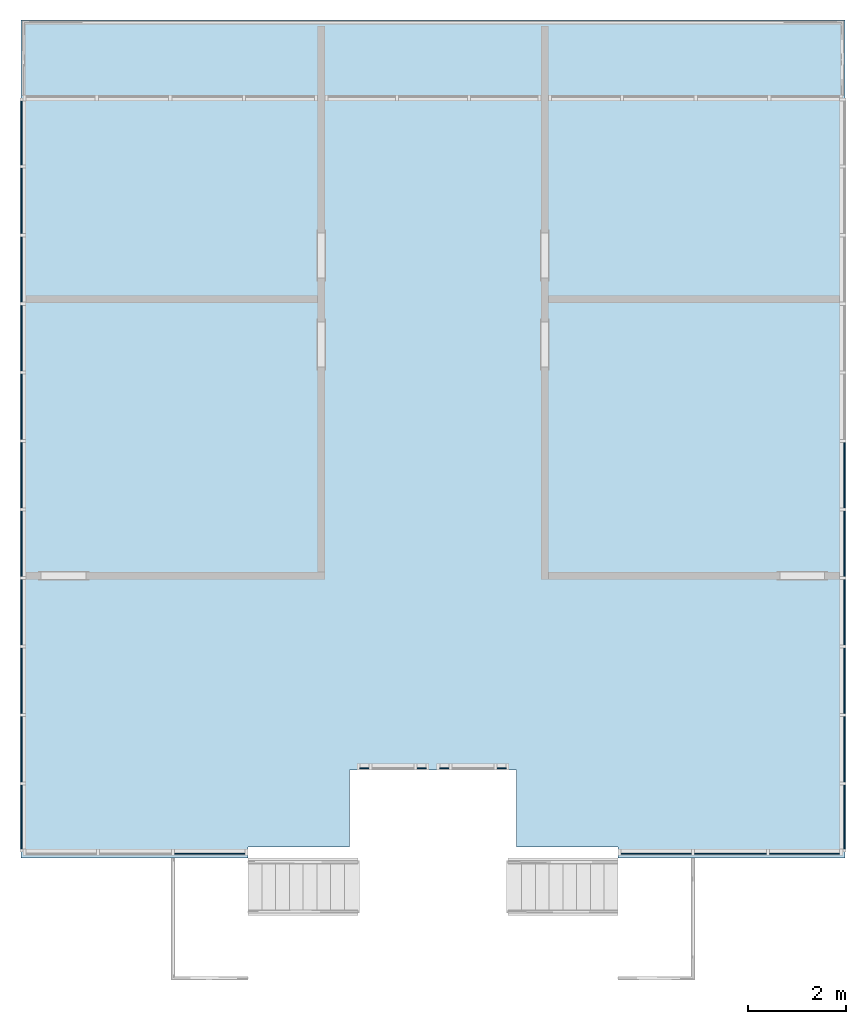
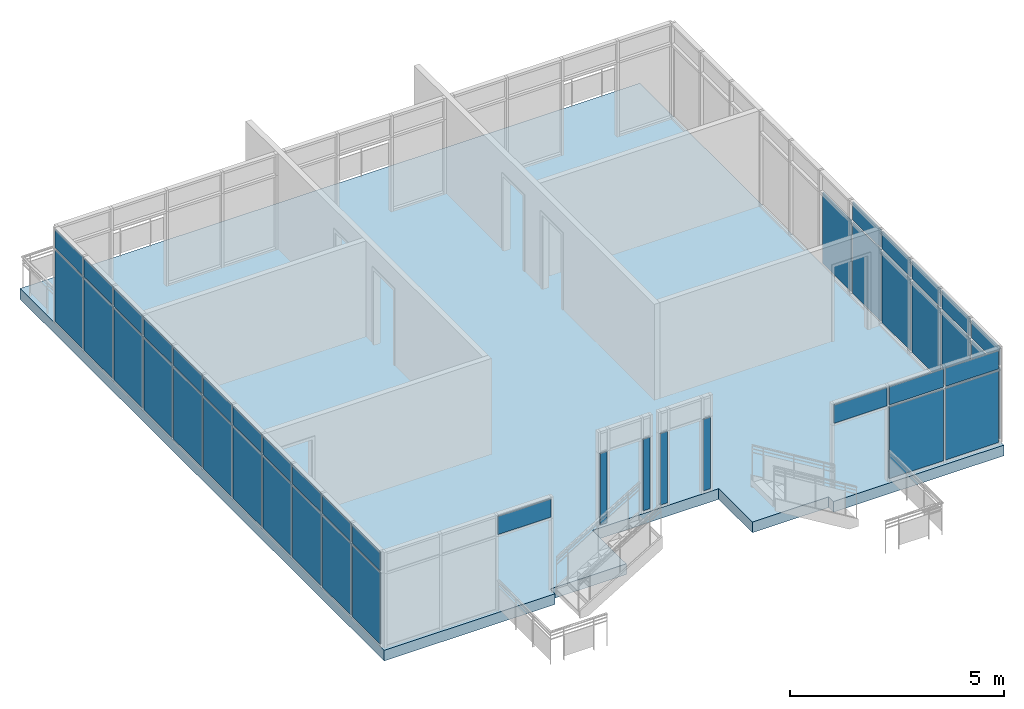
# One storey, part 5 of 11: 43 plates, 1 slab, 6 elements without a shape of their own.
"""IFC2X3 building model written with IfcOpenShell, lengths in feet."""

import ifcopenshell
import ifcopenshell.guid

model = None  # the IFC model being written
_history = None  # IfcOwnerHistory: only IFC2X3 demands one
_inside = {}  # id of a spatial element -> (the spatial element, [elements in it])
_under = {}  # id of a project, library or spatial element -> (it, [spatial elements below it])
_declared = {}  # id of a project -> (the project, [libraries it declares])
_typed = {}  # id of a type object -> (the type object, [elements of that type])
_made_of = {}  # id of a material, layer set ... -> (it, [elements and type objects made of it])


def new_model(schema):
    """Start an empty IFC model of exactly this schema.

    Asked for "IFC4X3", IfcOpenShell would pick the latest addendum, in which some entities
    have other attributes; the version numbers below select the first issue.
    IFC2X3 requires an IfcOwnerHistory on every rooted entity: one is made here for all.
    """
    global model, _history
    if schema == "IFC4X3":
        model = ifcopenshell.file(schema_version=(4, 3, 0, 0))
    else:
        model = ifcopenshell.file(schema=schema)
    _inside.clear()
    _under.clear()
    _declared.clear()
    _typed.clear()
    _made_of.clear()
    _history = None
    if model.schema == "IFC2X3":
        org = make("IfcOrganization", Name="unknown")
        user = make(
            "IfcPersonAndOrganization",
            ThePerson=make("IfcPerson", FamilyName="unknown"),
            TheOrganization=org,
        )
        app = make(
            "IfcApplication",
            ApplicationDeveloper=org,
            Version="unknown",
            ApplicationFullName="unknown",
            ApplicationIdentifier="unknown",
        )
        _history = make(
            "IfcOwnerHistory",
            OwningUser=user,
            OwningApplication=app,
            ChangeAction="ADDED",
            CreationDate=0,
        )
    return model


def make(cls, **values):
    """One entity of the class cls with the attributes given. An attribute that is None is left unset."""
    return model.create_entity(
        cls, **{name: value for name, value in values.items() if value is not None}
    )


def entity(cls, *values):
    """Any entity or typed value of the class cls, its attributes in the order of the schema. None: left unset."""
    e = model.create_entity(cls)
    for i, value in enumerate(values):
        if value is not None:
            e[i] = value
    return e


def rooted(cls, **values):
    """An entity with a GlobalId (a new one), such as an element, a storey or a relation."""
    return make(cls, GlobalId=ifcopenshell.guid.new(), OwnerHistory=_history, **values)


def si_unit(unit_type, name, prefix=None):
    """IfcSIUnit, for example si_unit("LENGTHUNIT", "METRE", prefix="MILLI")."""
    return make("IfcSIUnit", UnitType=unit_type, Prefix=prefix, Name=name)


def converted_unit(unit_type, name, factor, base, dimensions=None, offset=None):
    """IfcConversionBasedUnit, such as the inch: factor (a typed value) times the base unit."""
    return make(
        "IfcConversionBasedUnit"
        if offset is None
        else "IfcConversionBasedUnitWithOffset",
        ConversionOffset=offset,
        Dimensions=None
        if dimensions is None
        else entity("IfcDimensionalExponents", *dimensions),
        UnitType=unit_type,
        Name=name,
        ConversionFactor=make(
            "IfcMeasureWithUnit", ValueComponent=factor, UnitComponent=base
        ),
    )


def derived_unit(unit_type, elements):
    """IfcDerivedUnit: a product of units, each with its exponent."""
    return make(
        "IfcDerivedUnit",
        Elements=[
            make("IfcDerivedUnitElement", Unit=unit, Exponent=power)
            for unit, power in elements
        ],
        UnitType=unit_type,
    )


def assignment(units):
    """IfcUnitAssignment: the units of a project."""
    return None if units is None else make("IfcUnitAssignment", Units=units)


def point(xyz):
    """IfcCartesianPoint."""
    return None if xyz is None else make("IfcCartesianPoint", Coordinates=xyz)


def direction(xyz):
    """IfcDirection."""
    return None if xyz is None else make("IfcDirection", DirectionRatios=xyz)


def frame(location, z_axis=None, x_axis=None):
    """IfcAxis2Placement3D, a coordinate frame: its origin and axes. An axis left out is left unset."""
    return make(
        "IfcAxis2Placement3D",
        Location=point(location),
        Axis=direction(z_axis),
        RefDirection=direction(x_axis),
    )


def frame_2d(location, x_axis=None):
    """IfcAxis2Placement2D, a coordinate frame in the plane: its origin and x axis."""
    return make(
        "IfcAxis2Placement2D", Location=point(location), RefDirection=direction(x_axis)
    )


def origin():
    """The frame at (0, 0, 0) with its axes left unset."""
    return frame((0.0, 0.0, 0.0))


def place(relative_to, where):
    """IfcLocalPlacement: puts the frame where relative to a parent placement (None: the world)."""
    return make(
        "IfcLocalPlacement", PlacementRelTo=relative_to, RelativePlacement=where
    )


def context(
    kind, dimensions, precision=None, world=None, true_north=None, identifier=None
):
    """IfcGeometricRepresentationContext, for example the 3D "Model" context."""
    return make(
        "IfcGeometricRepresentationContext",
        ContextIdentifier=identifier,
        ContextType=kind,
        CoordinateSpaceDimension=dimensions,
        Precision=precision,
        WorldCoordinateSystem=world,
        TrueNorth=true_north,
    )


def subcontext(parent, identifier, kind, view, scale=None):
    """IfcGeometricRepresentationSubContext, for example "Body" below "Model"."""
    return make(
        "IfcGeometricRepresentationSubContext",
        ContextIdentifier=identifier,
        ContextType=kind,
        ParentContext=parent,
        TargetScale=scale,
        TargetView=view,
    )


def project(units=None, contexts=None):
    """IfcProject with its units and contexts."""
    return rooted(
        "IfcProject",
        Name="project",
        RepresentationContexts=contexts,
        UnitsInContext=assignment(units),
    )


def spatial(cls, under=None, at=None, **own):
    """A site, building, storey or space (cls), placed at a placement, below another one or the project."""
    s = rooted(cls, ObjectPlacement=at, **own)
    if under is not None:
        _under.setdefault(under.id(), (under, []))[1].append(s)
    return s


def polyline(points):
    """IfcPolyline through the points."""
    return make("IfcPolyline", Points=[point(p) for p in points])


def profile(cls, at=None, kind="AREA", **sizes):
    """A parametric profile (cls). Its sizes go by their IFC names, for example OverallWidth=200.0."""
    return make(cls, ProfileType=kind, Position=at, **sizes)


def rectangle(**sizes):
    """IfcRectangleProfileDef."""
    return profile("IfcRectangleProfileDef", **sizes)


def outline(outer, holes=None, kind="AREA"):
    """IfcArbitraryClosedProfileDef: a profile drawn as a closed curve; with holes, ...WithVoids."""
    if holes is None:
        return make("IfcArbitraryClosedProfileDef", ProfileType=kind, OuterCurve=outer)
    return make(
        "IfcArbitraryProfileDefWithVoids",
        ProfileType=kind,
        OuterCurve=outer,
        InnerCurves=holes,
    )


def extrude(swept, where, along, depth):
    """IfcExtrudedAreaSolid: the profile swept, set in the frame where, extruded along a direction by depth."""
    return make(
        "IfcExtrudedAreaSolid",
        SweptArea=swept,
        Position=where,
        ExtrudedDirection=direction(along),
        Depth=depth,
    )


def shape(context_of_items, identifier, shape_type, items):
    """IfcShapeRepresentation: the items that make up one representation, for example the "Body"."""
    return make(
        "IfcShapeRepresentation",
        ContextOfItems=context_of_items,
        RepresentationIdentifier=identifier,
        RepresentationType=shape_type,
        Items=items,
    )


def source(mapping_origin, context_of_items, identifier, shape_type, items):
    """IfcRepresentationMap: a shape defined once, which mapped items show again and again."""
    return make(
        "IfcRepresentationMap",
        MappingOrigin=mapping_origin,
        MappedRepresentation=shape(context_of_items, identifier, shape_type, items),
    )


def transform(
    local_origin,
    x_axis=None,
    y_axis=None,
    z_axis=None,
    scale=None,
    scale2=None,
    scale3=None,
    uniform=True,
):
    """IfcCartesianTransformationOperator3D, or its non-uniform kind. x_axis, y_axis, z_axis: its Axis1, 2, 3."""
    if uniform:
        return make(
            "IfcCartesianTransformationOperator3D",
            Axis1=direction(x_axis),
            Axis2=direction(y_axis),
            LocalOrigin=point(local_origin),
            Scale=scale,
            Axis3=direction(z_axis),
        )
    return make(
        "IfcCartesianTransformationOperator3DnonUniform",
        Axis1=direction(x_axis),
        Axis2=direction(y_axis),
        LocalOrigin=point(local_origin),
        Scale=scale,
        Axis3=direction(z_axis),
        Scale2=scale2,
        Scale3=scale3,
    )


def mapped(mapping_source, mapping_target):
    """IfcMappedItem: shows the shape of a source again, moved by a transform."""
    return make(
        "IfcMappedItem", MappingSource=mapping_source, MappingTarget=mapping_target
    )


def material(Name=None, Category=None):
    """IfcMaterial."""
    return make("IfcMaterial", Name=Name, Category=Category)


def layer(
    of_material, thickness, ventilated=None, Name=None, Category=None, Priority=None
):
    """IfcMaterialLayer: one layer of a wall or slab, of a material (None: an air gap)."""
    return make(
        "IfcMaterialLayer",
        Material=of_material,
        LayerThickness=thickness,
        IsVentilated=ventilated,
        Name=Name,
        Category=Category,
        Priority=Priority,
    )


def layer_set(layers, Name=None):
    """IfcMaterialLayerSet."""
    return make("IfcMaterialLayerSet", MaterialLayers=layers, LayerSetName=Name)


def layer_usage(for_layer_set, set_direction, sense, offset, extent=None):
    """IfcMaterialLayerSetUsage: how a layer set lies in its element."""
    return make(
        "IfcMaterialLayerSetUsage",
        ForLayerSet=for_layer_set,
        LayerSetDirection=set_direction,
        DirectionSense=sense,
        OffsetFromReferenceLine=offset,
        ReferenceExtent=extent,
    )


def made_of(thing, what):
    """Note that an element or type object is made of a material, layer set ...; save() writes the relation."""
    if what is not None:
        _made_of.setdefault(what.id(), (what, []))[1].append(thing)
    return thing


def type_object(cls, material=None, **own):
    """A type object (cls), such as IfcWallType, which elements share."""
    return made_of(rooted(cls, **own), material)


def type_shapes(of_type, sources):
    """Give a type object the sources (RepresentationMaps) that its elements show as mapped items."""
    of_type.RepresentationMaps = sources


def element(
    cls,
    number,
    at=None,
    inside=None,
    cuts=None,
    type_object=None,
    material=None,
    context=None,
    identifier="Body",
    shape_type=None,
    held_by="IfcProductDefinitionShape",
    body=None,
    shapes=None,
    **own,
):
    """One element of the class cls, such as IfcWall. Its Tag is "e" and its number.

    at: its placement. inside: the storey or other place that contains it. cuts: it is an
    opening in that element (IfcRelVoidsElement). A single representation is given by context,
    identifier, shape_type and body (its items); several are given by shapes. held_by: the class
    of the entity that holds the representations. save() writes the other relations.
    """
    e = rooted(cls, Tag="e%d" % number, ObjectPlacement=at, **own)
    if body is not None:
        shapes = [shape(context, identifier, shape_type, body)]
    if shapes is not None:
        e.Representation = make(held_by, Representations=shapes)
    if inside is not None:
        _inside.setdefault(inside.id(), (inside, []))[1].append(e)
    if cuts is not None:
        rooted(
            "IfcRelVoidsElement", RelatingBuildingElement=cuts, RelatedOpeningElement=e
        )
    if type_object is not None:
        _typed.setdefault(type_object.id(), (type_object, []))[1].append(e)
    return made_of(e, material)


def aggregate(whole, parts):
    """IfcRelAggregates: a whole, such as a stair, and the parts it consists of."""
    return rooted("IfcRelAggregates", RelatingObject=whole, RelatedObjects=parts)


def save(model, path):
    """Write the relations noted so far, then the file.

    IfcRelAggregates (storeys below a building ...), IfcRelContainedInSpatialStructure (elements
    in a storey), IfcRelDefinesByType, IfcRelAssociatesMaterial and IfcRelDeclares: one each for
    every whole, place, type object, material and project.
    """
    for whole, parts in _under.values():
        aggregate(whole, parts)
    for where, things in _inside.values():
        rooted(
            "IfcRelContainedInSpatialStructure",
            RelatedElements=things,
            RelatingStructure=where,
        )
    for kind, things in _typed.values():
        rooted("IfcRelDefinesByType", RelatedObjects=things, RelatingType=kind)
    for what, things in _made_of.values():
        rooted("IfcRelAssociatesMaterial", RelatedObjects=things, RelatingMaterial=what)
    for by, libraries in _declared.values():
        rooted("IfcRelDeclares", RelatingContext=by, RelatedDefinitions=libraries)
    model.write(path)


model = new_model("IFC2X3")

# Units and contexts
model_context = context("Model", 3, precision=0.0001, world=origin(), true_north=direction((6.12303176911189e-17, 1.0)))
body_context = subcontext(model_context, "Body", "Model", "MODEL_VIEW")
ifc_project = project(units=[converted_unit("LENGTHUNIT", "FOOT", entity("IfcRatioMeasure", 0.3048), si_unit("LENGTHUNIT", "METRE"), dimensions=[1, 0, 0, 0, 0, 0, 0]), converted_unit("AREAUNIT", "SQUARE FOOT", entity("IfcRatioMeasure", 0.09290304), si_unit("AREAUNIT", "SQUARE_METRE"), dimensions=[2, 0, 0, 0, 0, 0, 0]), converted_unit("VOLUMEUNIT", "CUBIC FOOT", entity("IfcRatioMeasure", 0.028316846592), si_unit("VOLUMEUNIT", "CUBIC_METRE"), dimensions=[3, 0, 0, 0, 0, 0, 0]), converted_unit("PLANEANGLEUNIT", "DEGREE", entity("IfcRatioMeasure", 0.0174532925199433), si_unit("PLANEANGLEUNIT", "RADIAN"), dimensions=[0, 0, 0, 0, 0, 0, 0]), si_unit("MASSUNIT", "GRAM", prefix="KILO"), derived_unit("MASSDENSITYUNIT", [(si_unit("MASSUNIT", "GRAM", prefix="KILO"), 1), (si_unit("LENGTHUNIT", "METRE"), -3)]), si_unit("TIMEUNIT", "SECOND"), si_unit("FREQUENCYUNIT", "HERTZ"), si_unit("THERMODYNAMICTEMPERATUREUNIT", "DEGREE_CELSIUS"), derived_unit("THERMALTRANSMITTANCEUNIT", [(si_unit("MASSUNIT", "GRAM", prefix="KILO"), 1), (si_unit("THERMODYNAMICTEMPERATUREUNIT", "KELVIN"), -1), (si_unit("TIMEUNIT", "SECOND"), -3)]), derived_unit("VOLUMETRICFLOWRATEUNIT", [(si_unit("LENGTHUNIT", "METRE"), 3), (si_unit("TIMEUNIT", "SECOND"), -1)]), si_unit("ELECTRICCURRENTUNIT", "AMPERE"), si_unit("ELECTRICVOLTAGEUNIT", "VOLT"), si_unit("POWERUNIT", "WATT"), si_unit("FORCEUNIT", "NEWTON"), si_unit("ILLUMINANCEUNIT", "LUX"), si_unit("LUMINOUSFLUXUNIT", "LUMEN"), si_unit("LUMINOUSINTENSITYUNIT", "CANDELA"), derived_unit("USERDEFINED", [(si_unit("MASSUNIT", "GRAM", prefix="KILO"), -1), (si_unit("LENGTHUNIT", "METRE"), -2), (si_unit("TIMEUNIT", "SECOND"), 3), (si_unit("LUMINOUSFLUXUNIT", "LUMEN"), 1)]), derived_unit("LINEARVELOCITYUNIT", [(si_unit("LENGTHUNIT", "METRE"), 1), (si_unit("TIMEUNIT", "SECOND"), -1)]), si_unit("PRESSUREUNIT", "PASCAL"), derived_unit("USERDEFINED", [(si_unit("LENGTHUNIT", "METRE"), -2), (si_unit("MASSUNIT", "GRAM", prefix="KILO"), 1), (si_unit("TIMEUNIT", "SECOND"), -2)])], contexts=[model_context])

# Site, building, storey
site_placement = place(None, origin())
site = spatial("IfcSite", under=ifc_project, at=site_placement, Name="Default", CompositionType="ELEMENT")
building_placement = place(site_placement, origin())
building = spatial("IfcBuilding", under=site, at=building_placement, CompositionType="ELEMENT")
storey_placement = place(building_placement, frame((0.0, 0.0, 40.0)))
storey = spatial("IfcBuildingStorey", under=building, at=storey_placement, Name="L 7", CompositionType="ELEMENT", Elevation=39.9999999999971)

# Curtain wall, plate
curtain_wall_type = type_object("IfcCurtainWallType", Name="Curtain Wall:Storefront 2", PredefinedType="NOTDEFINED")
curtain_wall_1_placement = place(storey_placement, frame((0.0, 0.0, -40.0)))
curtain_wall_1 = element("IfcCurtainWall", 1, at=curtain_wall_1_placement, inside=storey, type_object=curtain_wall_type, Name="Curtain Wall:Storefront 2", ObjectType="Curtain Wall:Storefront 2")
ifc_material_1 = material(Name="<Unnamed>")
ifc_layer_1 = layer(ifc_material_1, 0.0833333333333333)
ifc_layer_set_1 = layer_set([ifc_layer_1], Name="Curtain Wall:Storefront")
ifc_layer_usage_1 = layer_usage(ifc_layer_set_1, "AXIS3", "POSITIVE", 0.104166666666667)
plate_type_1 = type_object("IfcPlateType", Name="Glazed", PredefinedType="CURTAIN_PANEL", material=ifc_layer_set_1)
shared_shape_1 = source(origin(), body_context, "Body", "SweptSolid", [
    extrude(rectangle(XDim=0.0833333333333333, YDim=4.6875, at=frame_2d((-6.93889390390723e-18, 0.0), x_axis=(1.0, 0.0))), frame((0.0, 0.104166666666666, 0.0), z_axis=(0.0, 0.0, 1.0), x_axis=(0.0, 1.0, 0.0)), (0.0, 0.0, 1.0), 6.6875),
])
type_shapes(plate_type_1, [shared_shape_1])
plate_1_placement = place(curtain_wall_1_placement, frame((-9.2105794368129, -6.94114126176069, 40.2083333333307), z_axis=(0.0, 0.0, 1.0), x_axis=(-1.0, 0.0, 0.0)))
plate_1 = element("IfcPlate", 2, at=plate_1_placement, type_object=plate_type_1, material=ifc_layer_usage_1, Name="System Panel:Glazed", ObjectType="Glazed", context=body_context, shape_type="MappedRepresentation", body=[
    mapped(shared_shape_1, transform((0.0, 0.0, 0.0), scale=1.0)),
])

curtain_wall_2_placement = place(storey_placement, frame((0.0, 0.0, -40.0)))
curtain_wall_2 = element("IfcCurtainWall", 3, at=curtain_wall_2_placement, inside=storey, type_object=curtain_wall_type, Name="Curtain Wall:Storefront 2", ObjectType="Curtain Wall:Storefront 2")
ifc_layer_usage_2 = layer_usage(ifc_layer_set_1, "AXIS3", "POSITIVE", 0.104166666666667)
plate_type_2 = type_object("IfcPlateType", Name="Glazed", PredefinedType="CURTAIN_PANEL", material=ifc_layer_set_1)
shared_shape_2 = source(origin(), body_context, "Body", "SweptSolid", [
    extrude(rectangle(XDim=0.0833333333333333, YDim=4.6875, at=frame_2d((-6.93889390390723e-18, 0.0), x_axis=(1.0, 0.0))), frame((0.0, 0.104166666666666, 0.0), z_axis=(0.0, 0.0, 1.0), x_axis=(0.0, 1.0, 0.0)), (0.0, 0.0, 1.0), 1.6875),
])
type_shapes(plate_type_2, [shared_shape_2])
plate_2_placement = place(curtain_wall_2_placement, frame((-48.8772461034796, -6.94114126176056, 47.1041666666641), z_axis=(0.0, 0.0, 1.0), x_axis=(-1.0, 0.0, 0.0)))
plate_2 = element("IfcPlate", 4, at=plate_2_placement, type_object=plate_type_2, material=ifc_layer_usage_2, Name="System Panel:Glazed", ObjectType="Glazed", context=body_context, shape_type="MappedRepresentation", body=[
    mapped(shared_shape_2, transform((0.0, 0.0, 0.0), scale=1.0)),
])
aggregate(curtain_wall_2, [plate_2])

# Plate
ifc_layer_usage_3 = layer_usage(ifc_layer_set_1, "AXIS3", "POSITIVE", 0.104166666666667)
plate_3_placement = place(curtain_wall_1_placement, frame((-9.2105794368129, -6.94114126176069, 47.1041666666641), z_axis=(0.0, 0.0, 1.0), x_axis=(-1.0, 0.0, 0.0)))
plate_3 = element("IfcPlate", 5, at=plate_3_placement, type_object=plate_type_2, material=ifc_layer_usage_3, Name="System Panel:Glazed", ObjectType="Glazed", context=body_context, shape_type="MappedRepresentation", body=[
    mapped(shared_shape_2, transform((0.0, 0.0, 0.0), scale=1.0)),
])

ifc_layer_usage_4 = layer_usage(ifc_layer_set_1, "AXIS3", "POSITIVE", 0.104166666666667)
plate_4_placement = place(curtain_wall_1_placement, frame((-19.1064127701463, -6.94114126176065, 47.1041666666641), z_axis=(0.0, 0.0, 1.0), x_axis=(-1.0, 0.0, 0.0)))
plate_4 = element("IfcPlate", 6, at=plate_4_placement, type_object=plate_type_2, material=ifc_layer_usage_4, Name="System Panel:Glazed", ObjectType="Glazed", context=body_context, shape_type="MappedRepresentation", body=[
    mapped(shared_shape_2, transform((0.0, 0.0, 0.0), scale=1.0)),
])

ifc_layer_usage_5 = layer_usage(ifc_layer_set_1, "AXIS3", "POSITIVE", 0.104166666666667)
plate_type_3 = type_object("IfcPlateType", Name="Glazed", PredefinedType="CURTAIN_PANEL", material=ifc_layer_set_1)
shared_shape_3 = source(origin(), body_context, "Body", "SweptSolid", [
    extrude(rectangle(XDim=0.0833333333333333, YDim=4.79166666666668, at=frame_2d((-6.93889390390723e-18, 0.0), x_axis=(1.0, 0.0))), frame((0.0, 0.104166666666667, 0.0), z_axis=(0.0, 0.0, 1.0), x_axis=(0.0, 1.0, 0.0)), (0.0, 0.0, 1.0), 1.6875),
])
type_shapes(plate_type_3, [shared_shape_3])
plate_5_placement = place(curtain_wall_1_placement, frame((-14.1584961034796, -6.94114126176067, 47.1041666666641), z_axis=(0.0, 0.0, 1.0), x_axis=(-1.0, 0.0, 0.0)))
plate_5 = element("IfcPlate", 7, at=plate_5_placement, type_object=plate_type_3, material=ifc_layer_usage_5, Name="System Panel:Glazed", ObjectType="Glazed", context=body_context, shape_type="MappedRepresentation", body=[
    mapped(shared_shape_3, transform((0.0, 0.0, 0.0), scale=1.0)),
])

# Curtain wall, plates
curtain_wall_3_placement = place(storey_placement, frame((0.0, 0.0, -40.0)))
curtain_wall_3 = element("IfcCurtainWall", 8, at=curtain_wall_3_placement, inside=storey, type_object=curtain_wall_type, Name="Curtain Wall:Storefront 2", ObjectType="Curtain Wall:Storefront 2")
ifc_layer_usage_6 = layer_usage(ifc_layer_set_1, "AXIS3", "POSITIVE", 0.104166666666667)
plate_type_4 = type_object("IfcPlateType", Name="Glazed", PredefinedType="CURTAIN_PANEL", material=ifc_layer_set_1)
shared_shape_4 = source(origin(), body_context, "Body", "SweptSolid", [
    extrude(rectangle(XDim=0.0833333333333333, YDim=0.604166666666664, at=frame_2d((-6.93889390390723e-18, -2.77555756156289e-17), x_axis=(1.0, 0.0))), frame((0.0, 0.104166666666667, 0.0), z_axis=(0.0, 0.0, 1.0), x_axis=(0.0, 1.0, 0.0)), (0.0, 0.0, 1.0), 6.6875),
])
type_shapes(plate_type_4, [shared_shape_4])
plate_6_placement = place(curtain_wall_3_placement, frame((-34.7522461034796, -1.23280792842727, 40.2083333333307), z_axis=(0.0, 0.0, 1.0), x_axis=(-1.0, 0.0, 0.0)))
plate_6 = element("IfcPlate", 9, at=plate_6_placement, type_object=plate_type_4, material=ifc_layer_usage_6, Name="System Panel:Glazed", ObjectType="Glazed", context=body_context, shape_type="MappedRepresentation", body=[
    mapped(shared_shape_4, transform((0.0, 0.0, 0.0), scale=1.0)),
])
ifc_layer_usage_7 = layer_usage(ifc_layer_set_1, "AXIS3", "POSITIVE", 0.104166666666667)
plate_7_placement = place(curtain_wall_3_placement, frame((-38.5647461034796, -1.23280792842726, 40.2083333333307), z_axis=(0.0, 0.0, 1.0), x_axis=(-1.0, 0.0, 0.0)))
plate_7 = element("IfcPlate", 10, at=plate_7_placement, type_object=plate_type_4, material=ifc_layer_usage_7, Name="System Panel:Glazed", ObjectType="Glazed", context=body_context, shape_type="MappedRepresentation", body=[
    mapped(shared_shape_4, transform((0.0, 0.0, 0.0), scale=1.0)),
])
aggregate(curtain_wall_3, [plate_6, plate_7])

curtain_wall_4_placement = place(storey_placement, frame((0.0, 0.0, -40.0)))
curtain_wall_4 = element("IfcCurtainWall", 11, at=curtain_wall_4_placement, inside=storey, type_object=curtain_wall_type, Name="Curtain Wall:Storefront 2", ObjectType="Curtain Wall:Storefront 2")
ifc_layer_usage_8 = layer_usage(ifc_layer_set_1, "AXIS3", "POSITIVE", 0.104166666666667)
plate_8_placement = place(curtain_wall_4_placement, frame((-29.4189127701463, -1.23280792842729, 40.2083333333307), z_axis=(0.0, 0.0, 1.0), x_axis=(-1.0, 0.0, 0.0)))
plate_8 = element("IfcPlate", 12, at=plate_8_placement, type_object=plate_type_4, material=ifc_layer_usage_8, Name="System Panel:Glazed", ObjectType="Glazed", context=body_context, shape_type="MappedRepresentation", body=[
    mapped(shared_shape_4, transform((0.0, 0.0, 0.0), scale=1.0)),
])
ifc_layer_usage_9 = layer_usage(ifc_layer_set_1, "AXIS3", "POSITIVE", 0.104166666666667)
plate_9_placement = place(curtain_wall_4_placement, frame((-33.2314127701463, -1.23280792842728, 40.2083333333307), z_axis=(0.0, 0.0, 1.0), x_axis=(-1.0, 0.0, 0.0)))
plate_9 = element("IfcPlate", 13, at=plate_9_placement, type_object=plate_type_4, material=ifc_layer_usage_9, Name="System Panel:Glazed", ObjectType="Glazed", context=body_context, shape_type="MappedRepresentation", body=[
    mapped(shared_shape_4, transform((0.0, 0.0, 0.0), scale=1.0)),
])
aggregate(curtain_wall_4, [plate_8, plate_9])

# Plate
ifc_layer_usage_10 = layer_usage(ifc_layer_set_1, "AXIS3", "POSITIVE", 0.104166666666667)
plate_type_5 = type_object("IfcPlateType", Name="Glazed", PredefinedType="CURTAIN_PANEL", material=ifc_layer_set_1)
shared_shape_5 = source(origin(), body_context, "Body", "SweptSolid", [
    extrude(rectangle(XDim=0.0833333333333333, YDim=4.79166666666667, at=frame_2d((-6.93889390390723e-18, 0.0), x_axis=(1.0, 0.0))), frame((0.0, 0.104166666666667, 0.0), z_axis=(0.0, 0.0, 1.0), x_axis=(0.0, 1.0, 0.0)), (0.0, 0.0, 1.0), 6.6875),
])
type_shapes(plate_type_5, [shared_shape_5])
plate_10_placement = place(curtain_wall_1_placement, frame((-14.1584961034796, -6.94114126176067, 40.2083333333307), z_axis=(0.0, 0.0, 1.0), x_axis=(-1.0, 0.0, 0.0)))
plate_10 = element("IfcPlate", 14, at=plate_10_placement, type_object=plate_type_5, material=ifc_layer_usage_10, Name="System Panel:Glazed", ObjectType="Glazed", context=body_context, shape_type="MappedRepresentation", body=[
    mapped(shared_shape_5, transform((0.0, 0.0, 0.0), scale=1.0)),
])

aggregate(curtain_wall_1, [plate_1, plate_10, plate_3, plate_5, plate_4])

# Curtain wall, plates
curtain_wall_5_placement = place(storey_placement, frame((0.0, 0.0, -40.0)))
curtain_wall_5 = element("IfcCurtainWall", 15, at=curtain_wall_5_placement, inside=storey, type_object=curtain_wall_type, Name="Curtain Wall:Storefront 2", ObjectType="Curtain Wall:Storefront 2")
ifc_layer_usage_11 = layer_usage(ifc_layer_set_1, "AXIS3", "POSITIVE", 0.104166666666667)
plate_type_6 = type_object("IfcPlateType", Name="Glazed", PredefinedType="CURTAIN_PANEL", material=ifc_layer_set_1)
shared_shape_6 = source(origin(), body_context, "Body", "SweptSolid", [
    extrude(rectangle(XDim=0.0833333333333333, YDim=4.25946969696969, at=frame_2d((-6.93889390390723e-18, 0.0), x_axis=(1.0, 0.0))), frame((0.0, 0.104166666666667, 0.0), z_axis=(0.0, 0.0, 1.0), x_axis=(0.0, 1.0, 0.0)), (0.0, 0.0, 1.0), 6.6875),
])
type_shapes(plate_type_6, [shared_shape_6])
plate_11_placement = place(curtain_wall_5_placement, frame((-61.3251627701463, -4.60307307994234, 40.2083333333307), z_axis=(0.0, 0.0, 1.0), x_axis=(0.0, 1.0, 0.0)))
plate_11 = element("IfcPlate", 16, at=plate_11_placement, type_object=plate_type_6, material=ifc_layer_usage_11, Name="System Panel:Glazed", ObjectType="Glazed", context=body_context, shape_type="MappedRepresentation", body=[
    mapped(shared_shape_6, transform((0.0, 0.0, 0.0), scale=1.0)),
])
ifc_layer_usage_12 = layer_usage(ifc_layer_set_1, "AXIS3", "POSITIVE", 0.104166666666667)
plate_12_placement = place(curtain_wall_5_placement, frame((-61.3251627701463, 41.0124572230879, 40.2083333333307), z_axis=(0.0, 0.0, 1.0), x_axis=(0.0, 1.0, 0.0)))
plate_12 = element("IfcPlate", 17, at=plate_12_placement, type_object=plate_type_6, material=ifc_layer_usage_12, Name="System Panel:Glazed", ObjectType="Glazed", context=body_context, shape_type="MappedRepresentation", body=[
    mapped(shared_shape_6, transform((0.0, 0.0, 0.0), scale=1.0)),
])

# Curtain wall, plate
curtain_wall_6_placement = place(storey_placement, frame((0.0, 0.0, -40.0)))
curtain_wall_6 = element("IfcCurtainWall", 18, at=curtain_wall_6_placement, inside=storey, type_object=curtain_wall_type, Name="Curtain Wall:Storefront 2", ObjectType="Curtain Wall:Storefront 2")
ifc_layer_usage_13 = layer_usage(ifc_layer_set_1, "AXIS3", "POSITIVE", 0.104166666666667)
plate_13_placement = place(curtain_wall_6_placement, frame((-6.65849610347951, -4.60307307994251, 40.2083333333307), z_axis=(0.0, 0.0, 1.0), x_axis=(0.0, -1.0, 0.0)))
plate_13 = element("IfcPlate", 19, at=plate_13_placement, type_object=plate_type_6, material=ifc_layer_usage_13, Name="System Panel:Glazed", ObjectType="Glazed", context=body_context, shape_type="MappedRepresentation", body=[
    mapped(shared_shape_6, transform((0.0, 0.0, 0.0), scale=1.0)),
])

# Plate
ifc_layer_usage_14 = layer_usage(ifc_layer_set_1, "AXIS3", "POSITIVE", 0.104166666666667)
plate_type_7 = type_object("IfcPlateType", Name="Glazed", PredefinedType="CURTAIN_PANEL", material=ifc_layer_set_1)
shared_shape_7 = source(origin(), body_context, "Body", "SweptSolid", [
    extrude(rectangle(XDim=0.0833333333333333, YDim=4.36363636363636, at=frame_2d((-6.93889390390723e-18, 0.0), x_axis=(1.0, 0.0))), frame((0.0, 0.104166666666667, 0.0), z_axis=(0.0, 0.0, 1.0), x_axis=(0.0, 1.0, 0.0)), (0.0, 0.0, 1.0), 6.6875),
])
type_shapes(plate_type_7, [shared_shape_7])
plate_14_placement = place(curtain_wall_5_placement, frame((-61.3251627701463, -0.0831867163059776, 40.2083333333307), z_axis=(0.0, 0.0, 1.0), x_axis=(0.0, 1.0, 0.0)))
plate_14 = element("IfcPlate", 20, at=plate_14_placement, type_object=plate_type_7, material=ifc_layer_usage_14, Name="System Panel:Glazed", ObjectType="Glazed", context=body_context, shape_type="MappedRepresentation", body=[
    mapped(shared_shape_7, transform((0.0, 0.0, 0.0), scale=1.0)),
])

ifc_layer_usage_15 = layer_usage(ifc_layer_set_1, "AXIS3", "POSITIVE", 0.104166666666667)
plate_15_placement = place(curtain_wall_5_placement, frame((-61.3251627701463, 4.48878298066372, 40.2083333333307), z_axis=(0.0, 0.0, 1.0), x_axis=(0.0, 1.0, 0.0)))
plate_15 = element("IfcPlate", 21, at=plate_15_placement, type_object=plate_type_7, material=ifc_layer_usage_15, Name="System Panel:Glazed", ObjectType="Glazed", context=body_context, shape_type="MappedRepresentation", body=[
    mapped(shared_shape_7, transform((0.0, 0.0, 0.0), scale=1.0)),
])

ifc_layer_usage_16 = layer_usage(ifc_layer_set_1, "AXIS3", "POSITIVE", 0.104166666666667)
plate_16_placement = place(curtain_wall_5_placement, frame((-61.3251627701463, 9.06075267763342, 40.2083333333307), z_axis=(0.0, 0.0, 1.0), x_axis=(0.0, 1.0, 0.0)))
plate_16 = element("IfcPlate", 22, at=plate_16_placement, type_object=plate_type_7, material=ifc_layer_usage_16, Name="System Panel:Glazed", ObjectType="Glazed", context=body_context, shape_type="MappedRepresentation", body=[
    mapped(shared_shape_7, transform((0.0, 0.0, 0.0), scale=1.0)),
])

ifc_layer_usage_17 = layer_usage(ifc_layer_set_1, "AXIS3", "POSITIVE", 0.104166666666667)
plate_17_placement = place(curtain_wall_5_placement, frame((-61.3251627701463, 13.6327223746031, 40.2083333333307), z_axis=(0.0, 0.0, 1.0), x_axis=(0.0, 1.0, 0.0)))
plate_17 = element("IfcPlate", 23, at=plate_17_placement, type_object=plate_type_7, material=ifc_layer_usage_17, Name="System Panel:Glazed", ObjectType="Glazed", context=body_context, shape_type="MappedRepresentation", body=[
    mapped(shared_shape_7, transform((0.0, 0.0, 0.0), scale=1.0)),
])

ifc_layer_usage_18 = layer_usage(ifc_layer_set_1, "AXIS3", "POSITIVE", 0.104166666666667)
plate_18_placement = place(curtain_wall_5_placement, frame((-61.3251627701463, 18.2046920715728, 40.2083333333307), z_axis=(0.0, 0.0, 1.0), x_axis=(0.0, 1.0, 0.0)))
plate_18 = element("IfcPlate", 24, at=plate_18_placement, type_object=plate_type_7, material=ifc_layer_usage_18, Name="System Panel:Glazed", ObjectType="Glazed", context=body_context, shape_type="MappedRepresentation", body=[
    mapped(shared_shape_7, transform((0.0, 0.0, 0.0), scale=1.0)),
])

ifc_layer_usage_19 = layer_usage(ifc_layer_set_1, "AXIS3", "POSITIVE", 0.104166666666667)
plate_19_placement = place(curtain_wall_5_placement, frame((-61.3251627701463, 22.7766617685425, 40.2083333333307), z_axis=(0.0, 0.0, 1.0), x_axis=(0.0, 1.0, 0.0)))
plate_19 = element("IfcPlate", 25, at=plate_19_placement, type_object=plate_type_7, material=ifc_layer_usage_19, Name="System Panel:Glazed", ObjectType="Glazed", context=body_context, shape_type="MappedRepresentation", body=[
    mapped(shared_shape_7, transform((0.0, 0.0, 0.0), scale=1.0)),
])

ifc_layer_usage_20 = layer_usage(ifc_layer_set_1, "AXIS3", "POSITIVE", 0.104166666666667)
plate_20_placement = place(curtain_wall_5_placement, frame((-61.3251627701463, 27.3486314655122, 40.2083333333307), z_axis=(0.0, 0.0, 1.0), x_axis=(0.0, 1.0, 0.0)))
plate_20 = element("IfcPlate", 26, at=plate_20_placement, type_object=plate_type_7, material=ifc_layer_usage_20, Name="System Panel:Glazed", ObjectType="Glazed", context=body_context, shape_type="MappedRepresentation", body=[
    mapped(shared_shape_7, transform((0.0, 0.0, 0.0), scale=1.0)),
])

ifc_layer_usage_21 = layer_usage(ifc_layer_set_1, "AXIS3", "POSITIVE", 0.104166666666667)
plate_21_placement = place(curtain_wall_5_placement, frame((-61.3251627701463, 31.9206011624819, 40.2083333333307), z_axis=(0.0, 0.0, 1.0), x_axis=(0.0, 1.0, 0.0)))
plate_21 = element("IfcPlate", 27, at=plate_21_placement, type_object=plate_type_7, material=ifc_layer_usage_21, Name="System Panel:Glazed", ObjectType="Glazed", context=body_context, shape_type="MappedRepresentation", body=[
    mapped(shared_shape_7, transform((0.0, 0.0, 0.0), scale=1.0)),
])

ifc_layer_usage_22 = layer_usage(ifc_layer_set_1, "AXIS3", "POSITIVE", 0.104166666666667)
plate_22_placement = place(curtain_wall_5_placement, frame((-61.3251627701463, 36.4925708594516, 40.2083333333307), z_axis=(0.0, 0.0, 1.0), x_axis=(0.0, 1.0, 0.0)))
plate_22 = element("IfcPlate", 28, at=plate_22_placement, type_object=plate_type_7, material=ifc_layer_usage_22, Name="System Panel:Glazed", ObjectType="Glazed", context=body_context, shape_type="MappedRepresentation", body=[
    mapped(shared_shape_7, transform((0.0, 0.0, 0.0), scale=1.0)),
])

ifc_layer_usage_23 = layer_usage(ifc_layer_set_1, "AXIS3", "POSITIVE", 0.104166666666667)
plate_23_placement = place(curtain_wall_6_placement, frame((-6.65849610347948, 18.2046920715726, 40.2083333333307), z_axis=(0.0, 0.0, 1.0), x_axis=(0.0, -1.0, 0.0)))
plate_23 = element("IfcPlate", 29, at=plate_23_placement, type_object=plate_type_7, material=ifc_layer_usage_23, Name="System Panel:Glazed", ObjectType="Glazed", context=body_context, shape_type="MappedRepresentation", body=[
    mapped(shared_shape_7, transform((0.0, 0.0, 0.0), scale=1.0)),
])

ifc_layer_usage_24 = layer_usage(ifc_layer_set_1, "AXIS3", "POSITIVE", 0.104166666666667)
plate_24_placement = place(curtain_wall_6_placement, frame((-6.65849610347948, 13.6327223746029, 40.2083333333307), z_axis=(0.0, 0.0, 1.0), x_axis=(0.0, -1.0, 0.0)))
plate_24 = element("IfcPlate", 30, at=plate_24_placement, type_object=plate_type_7, material=ifc_layer_usage_24, Name="System Panel:Glazed", ObjectType="Glazed", context=body_context, shape_type="MappedRepresentation", body=[
    mapped(shared_shape_7, transform((0.0, 0.0, 0.0), scale=1.0)),
])

ifc_layer_usage_25 = layer_usage(ifc_layer_set_1, "AXIS3", "POSITIVE", 0.104166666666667)
plate_25_placement = place(curtain_wall_6_placement, frame((-6.65849610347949, 9.06075267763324, 40.2083333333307), z_axis=(0.0, 0.0, 1.0), x_axis=(0.0, -1.0, 0.0)))
plate_25 = element("IfcPlate", 31, at=plate_25_placement, type_object=plate_type_7, material=ifc_layer_usage_25, Name="System Panel:Glazed", ObjectType="Glazed", context=body_context, shape_type="MappedRepresentation", body=[
    mapped(shared_shape_7, transform((0.0, 0.0, 0.0), scale=1.0)),
])

ifc_layer_usage_26 = layer_usage(ifc_layer_set_1, "AXIS3", "POSITIVE", 0.104166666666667)
plate_26_placement = place(curtain_wall_6_placement, frame((-6.6584961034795, 4.48878298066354, 40.2083333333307), z_axis=(0.0, 0.0, 1.0), x_axis=(0.0, -1.0, 0.0)))
plate_26 = element("IfcPlate", 32, at=plate_26_placement, type_object=plate_type_7, material=ifc_layer_usage_26, Name="System Panel:Glazed", ObjectType="Glazed", context=body_context, shape_type="MappedRepresentation", body=[
    mapped(shared_shape_7, transform((0.0, 0.0, 0.0), scale=1.0)),
])

ifc_layer_usage_27 = layer_usage(ifc_layer_set_1, "AXIS3", "POSITIVE", 0.104166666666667)
plate_27_placement = place(curtain_wall_6_placement, frame((-6.65849610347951, -0.0831867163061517, 40.2083333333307), z_axis=(0.0, 0.0, 1.0), x_axis=(0.0, -1.0, 0.0)))
plate_27 = element("IfcPlate", 33, at=plate_27_placement, type_object=plate_type_7, material=ifc_layer_usage_27, Name="System Panel:Glazed", ObjectType="Glazed", context=body_context, shape_type="MappedRepresentation", body=[
    mapped(shared_shape_7, transform((0.0, 0.0, 0.0), scale=1.0)),
])

ifc_layer_usage_28 = layer_usage(ifc_layer_set_1, "AXIS3", "POSITIVE", 0.104166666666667)
plate_type_8 = type_object("IfcPlateType", Name="Glazed", PredefinedType="CURTAIN_PANEL", material=ifc_layer_set_1)
shared_shape_8 = source(origin(), body_context, "Body", "SweptSolid", [
    extrude(rectangle(XDim=0.0833333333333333, YDim=4.2594696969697, at=frame_2d((-6.93889390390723e-18, 0.0), x_axis=(1.0, 0.0))), frame((0.0, 0.104166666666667, 0.0), z_axis=(0.0, 0.0, 1.0), x_axis=(0.0, 1.0, 0.0)), (0.0, 0.0, 1.0), 1.6875),
])
type_shapes(plate_type_8, [shared_shape_8])
plate_28_placement = place(curtain_wall_5_placement, frame((-61.3251627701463, -4.60307307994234, 47.1041666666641), z_axis=(0.0, 0.0, 1.0), x_axis=(0.0, 1.0, 0.0)))
plate_28 = element("IfcPlate", 34, at=plate_28_placement, type_object=plate_type_8, material=ifc_layer_usage_28, Name="System Panel:Glazed", ObjectType="Glazed", context=body_context, shape_type="MappedRepresentation", body=[
    mapped(shared_shape_8, transform((0.0, 0.0, 0.0), scale=1.0)),
])

ifc_layer_usage_29 = layer_usage(ifc_layer_set_1, "AXIS3", "POSITIVE", 0.104166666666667)
plate_29_placement = place(curtain_wall_5_placement, frame((-61.3251627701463, 41.0124572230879, 47.1041666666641), z_axis=(0.0, 0.0, 1.0), x_axis=(0.0, 1.0, 0.0)))
plate_29 = element("IfcPlate", 35, at=plate_29_placement, type_object=plate_type_8, material=ifc_layer_usage_29, Name="System Panel:Glazed", ObjectType="Glazed", context=body_context, shape_type="MappedRepresentation", body=[
    mapped(shared_shape_8, transform((0.0, 0.0, 0.0), scale=1.0)),
])

ifc_layer_usage_30 = layer_usage(ifc_layer_set_1, "AXIS3", "POSITIVE", 0.104166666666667)
plate_30_placement = place(curtain_wall_6_placement, frame((-6.65849610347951, -4.60307307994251, 47.1041666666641), z_axis=(0.0, 0.0, 1.0), x_axis=(0.0, -1.0, 0.0)))
plate_30 = element("IfcPlate", 36, at=plate_30_placement, type_object=plate_type_8, material=ifc_layer_usage_30, Name="System Panel:Glazed", ObjectType="Glazed", context=body_context, shape_type="MappedRepresentation", body=[
    mapped(shared_shape_8, transform((0.0, 0.0, 0.0), scale=1.0)),
])

ifc_layer_usage_31 = layer_usage(ifc_layer_set_1, "AXIS3", "POSITIVE", 0.104166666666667)
plate_type_9 = type_object("IfcPlateType", Name="Glazed", PredefinedType="CURTAIN_PANEL", material=ifc_layer_set_1)
shared_shape_9 = source(origin(), body_context, "Body", "SweptSolid", [
    extrude(rectangle(XDim=0.0833333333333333, YDim=4.36363636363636, at=frame_2d((-6.93889390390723e-18, 0.0), x_axis=(1.0, 0.0))), frame((0.0, 0.104166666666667, 0.0), z_axis=(0.0, 0.0, 1.0), x_axis=(0.0, 1.0, 0.0)), (0.0, 0.0, 1.0), 1.6875),
])
type_shapes(plate_type_9, [shared_shape_9])
plate_31_placement = place(curtain_wall_5_placement, frame((-61.3251627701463, -0.0831867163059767, 47.1041666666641), z_axis=(0.0, 0.0, 1.0), x_axis=(0.0, 1.0, 0.0)))
plate_31 = element("IfcPlate", 37, at=plate_31_placement, type_object=plate_type_9, material=ifc_layer_usage_31, Name="System Panel:Glazed", ObjectType="Glazed", context=body_context, shape_type="MappedRepresentation", body=[
    mapped(shared_shape_9, transform((0.0, 0.0, 0.0), scale=1.0)),
])

ifc_layer_usage_32 = layer_usage(ifc_layer_set_1, "AXIS3", "POSITIVE", 0.104166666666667)
plate_32_placement = place(curtain_wall_5_placement, frame((-61.3251627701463, 4.48878298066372, 47.1041666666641), z_axis=(0.0, 0.0, 1.0), x_axis=(0.0, 1.0, 0.0)))
plate_32 = element("IfcPlate", 38, at=plate_32_placement, type_object=plate_type_9, material=ifc_layer_usage_32, Name="System Panel:Glazed", ObjectType="Glazed", context=body_context, shape_type="MappedRepresentation", body=[
    mapped(shared_shape_9, transform((0.0, 0.0, 0.0), scale=1.0)),
])

ifc_layer_usage_33 = layer_usage(ifc_layer_set_1, "AXIS3", "POSITIVE", 0.104166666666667)
plate_33_placement = place(curtain_wall_5_placement, frame((-61.3251627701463, 9.06075267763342, 47.1041666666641), z_axis=(0.0, 0.0, 1.0), x_axis=(0.0, 1.0, 0.0)))
plate_33 = element("IfcPlate", 39, at=plate_33_placement, type_object=plate_type_9, material=ifc_layer_usage_33, Name="System Panel:Glazed", ObjectType="Glazed", context=body_context, shape_type="MappedRepresentation", body=[
    mapped(shared_shape_9, transform((0.0, 0.0, 0.0), scale=1.0)),
])

ifc_layer_usage_34 = layer_usage(ifc_layer_set_1, "AXIS3", "POSITIVE", 0.104166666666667)
plate_34_placement = place(curtain_wall_5_placement, frame((-61.3251627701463, 13.6327223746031, 47.1041666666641), z_axis=(0.0, 0.0, 1.0), x_axis=(0.0, 1.0, 0.0)))
plate_34 = element("IfcPlate", 40, at=plate_34_placement, type_object=plate_type_9, material=ifc_layer_usage_34, Name="System Panel:Glazed", ObjectType="Glazed", context=body_context, shape_type="MappedRepresentation", body=[
    mapped(shared_shape_9, transform((0.0, 0.0, 0.0), scale=1.0)),
])

ifc_layer_usage_35 = layer_usage(ifc_layer_set_1, "AXIS3", "POSITIVE", 0.104166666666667)
plate_35_placement = place(curtain_wall_5_placement, frame((-61.3251627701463, 18.2046920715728, 47.1041666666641), z_axis=(0.0, 0.0, 1.0), x_axis=(0.0, 1.0, 0.0)))
plate_35 = element("IfcPlate", 41, at=plate_35_placement, type_object=plate_type_9, material=ifc_layer_usage_35, Name="System Panel:Glazed", ObjectType="Glazed", context=body_context, shape_type="MappedRepresentation", body=[
    mapped(shared_shape_9, transform((0.0, 0.0, 0.0), scale=1.0)),
])

ifc_layer_usage_36 = layer_usage(ifc_layer_set_1, "AXIS3", "POSITIVE", 0.104166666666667)
plate_36_placement = place(curtain_wall_5_placement, frame((-61.3251627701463, 22.7766617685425, 47.1041666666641), z_axis=(0.0, 0.0, 1.0), x_axis=(0.0, 1.0, 0.0)))
plate_36 = element("IfcPlate", 42, at=plate_36_placement, type_object=plate_type_9, material=ifc_layer_usage_36, Name="System Panel:Glazed", ObjectType="Glazed", context=body_context, shape_type="MappedRepresentation", body=[
    mapped(shared_shape_9, transform((0.0, 0.0, 0.0), scale=1.0)),
])

ifc_layer_usage_37 = layer_usage(ifc_layer_set_1, "AXIS3", "POSITIVE", 0.104166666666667)
plate_37_placement = place(curtain_wall_5_placement, frame((-61.3251627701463, 27.3486314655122, 47.1041666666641), z_axis=(0.0, 0.0, 1.0), x_axis=(0.0, 1.0, 0.0)))
plate_37 = element("IfcPlate", 43, at=plate_37_placement, type_object=plate_type_9, material=ifc_layer_usage_37, Name="System Panel:Glazed", ObjectType="Glazed", context=body_context, shape_type="MappedRepresentation", body=[
    mapped(shared_shape_9, transform((0.0, 0.0, 0.0), scale=1.0)),
])

ifc_layer_usage_38 = layer_usage(ifc_layer_set_1, "AXIS3", "POSITIVE", 0.104166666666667)
plate_38_placement = place(curtain_wall_5_placement, frame((-61.3251627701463, 31.9206011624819, 47.1041666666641), z_axis=(0.0, 0.0, 1.0), x_axis=(0.0, 1.0, 0.0)))
plate_38 = element("IfcPlate", 44, at=plate_38_placement, type_object=plate_type_9, material=ifc_layer_usage_38, Name="System Panel:Glazed", ObjectType="Glazed", context=body_context, shape_type="MappedRepresentation", body=[
    mapped(shared_shape_9, transform((0.0, 0.0, 0.0), scale=1.0)),
])

ifc_layer_usage_39 = layer_usage(ifc_layer_set_1, "AXIS3", "POSITIVE", 0.104166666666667)
plate_39_placement = place(curtain_wall_5_placement, frame((-61.3251627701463, 36.4925708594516, 47.1041666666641), z_axis=(0.0, 0.0, 1.0), x_axis=(0.0, 1.0, 0.0)))
plate_39 = element("IfcPlate", 45, at=plate_39_placement, type_object=plate_type_9, material=ifc_layer_usage_39, Name="System Panel:Glazed", ObjectType="Glazed", context=body_context, shape_type="MappedRepresentation", body=[
    mapped(shared_shape_9, transform((0.0, 0.0, 0.0), scale=1.0)),
])

aggregate(curtain_wall_5, [plate_11, plate_14, plate_15, plate_16, plate_17, plate_18, plate_19, plate_20, plate_21, plate_22, plate_12, plate_28, plate_31, plate_32, plate_33, plate_34, plate_35, plate_36, plate_37, plate_38, plate_39, plate_29])

ifc_layer_usage_40 = layer_usage(ifc_layer_set_1, "AXIS3", "POSITIVE", 0.104166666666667)
plate_40_placement = place(curtain_wall_6_placement, frame((-6.65849610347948, 13.6327223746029, 47.1041666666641), z_axis=(0.0, 0.0, 1.0), x_axis=(0.0, -1.0, 0.0)))
plate_40 = element("IfcPlate", 46, at=plate_40_placement, type_object=plate_type_9, material=ifc_layer_usage_40, Name="System Panel:Glazed", ObjectType="Glazed", context=body_context, shape_type="MappedRepresentation", body=[
    mapped(shared_shape_9, transform((0.0, 0.0, 0.0), scale=1.0)),
])

ifc_layer_usage_41 = layer_usage(ifc_layer_set_1, "AXIS3", "POSITIVE", 0.104166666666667)
plate_41_placement = place(curtain_wall_6_placement, frame((-6.65849610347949, 9.06075267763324, 47.1041666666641), z_axis=(0.0, 0.0, 1.0), x_axis=(0.0, -1.0, 0.0)))
plate_41 = element("IfcPlate", 47, at=plate_41_placement, type_object=plate_type_9, material=ifc_layer_usage_41, Name="System Panel:Glazed", ObjectType="Glazed", context=body_context, shape_type="MappedRepresentation", body=[
    mapped(shared_shape_9, transform((0.0, 0.0, 0.0), scale=1.0)),
])

ifc_layer_usage_42 = layer_usage(ifc_layer_set_1, "AXIS3", "POSITIVE", 0.104166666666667)
plate_42_placement = place(curtain_wall_6_placement, frame((-6.6584961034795, 4.48878298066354, 47.1041666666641), z_axis=(0.0, 0.0, 1.0), x_axis=(0.0, -1.0, 0.0)))
plate_42 = element("IfcPlate", 48, at=plate_42_placement, type_object=plate_type_9, material=ifc_layer_usage_42, Name="System Panel:Glazed", ObjectType="Glazed", context=body_context, shape_type="MappedRepresentation", body=[
    mapped(shared_shape_9, transform((0.0, 0.0, 0.0), scale=1.0)),
])

ifc_layer_usage_43 = layer_usage(ifc_layer_set_1, "AXIS3", "POSITIVE", 0.104166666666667)
plate_43_placement = place(curtain_wall_6_placement, frame((-6.65849610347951, -0.0831867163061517, 47.1041666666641), z_axis=(0.0, 0.0, 1.0), x_axis=(0.0, -1.0, 0.0)))
plate_43 = element("IfcPlate", 49, at=plate_43_placement, type_object=plate_type_9, material=ifc_layer_usage_43, Name="System Panel:Glazed", ObjectType="Glazed", context=body_context, shape_type="MappedRepresentation", body=[
    mapped(shared_shape_9, transform((0.0, 0.0, 0.0), scale=1.0)),
])

aggregate(curtain_wall_6, [plate_23, plate_24, plate_25, plate_26, plate_27, plate_13, plate_40, plate_41, plate_42, plate_43, plate_30])

# Slab
ifc_material_2 = material(Name="Concrete, Cast-in-Place gray")
ifc_layer_2 = layer(ifc_material_2, 1.0)
ifc_layer_set_2 = layer_set([ifc_layer_2], Name="Floor:Generic - 12\"")
ifc_layer_usage_44 = layer_usage(ifc_layer_set_2, "AXIS3", "POSITIVE", 0.0)
slab_placement = place(storey_placement, origin())
element("IfcSlab", 50, at=slab_placement, inside=storey, material=ifc_layer_usage_44, Name="Floor:Generic - 12\"", ObjectType="Floor:Generic - 12\"", PredefinedType="FLOOR", context=body_context, shape_type="SweptSolid", body=[
    extrude(outline(polyline([(-10.5416666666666, -27.460237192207), (45.3541666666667, -27.460237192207), (45.3541666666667, 27.460237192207), (-10.5416666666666, 27.460237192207), (-10.5416666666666, 12.3333333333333), (-9.8125000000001, 12.3333333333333), (-9.8125000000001, 5.58333333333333), (-4.64583333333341, 5.58333333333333), (-4.64583333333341, -5.58333333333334), (-9.81250000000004, -5.58333333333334), (-9.81250000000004, -12.3333333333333), (-10.5416666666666, -12.3333333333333), (-10.5416666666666, -27.460237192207)])), frame((-33.9918294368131, 3.20469207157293, 0.0), z_axis=(0.0, 0.0, -1.0), x_axis=(0.0, 1.0, 0.0)), (0.0, 0.0, 1.0), 1.0),
])

save(model, "model.ifc")
